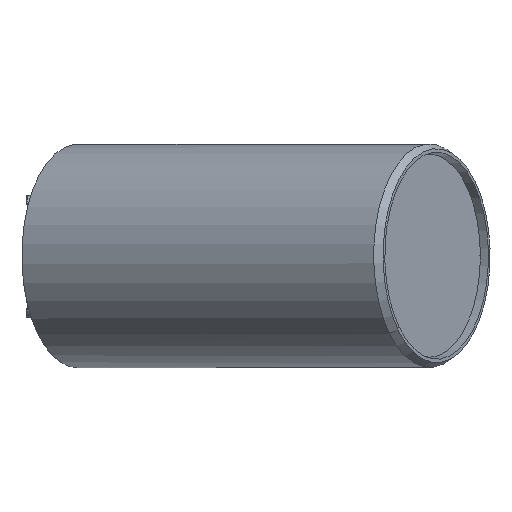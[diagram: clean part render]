
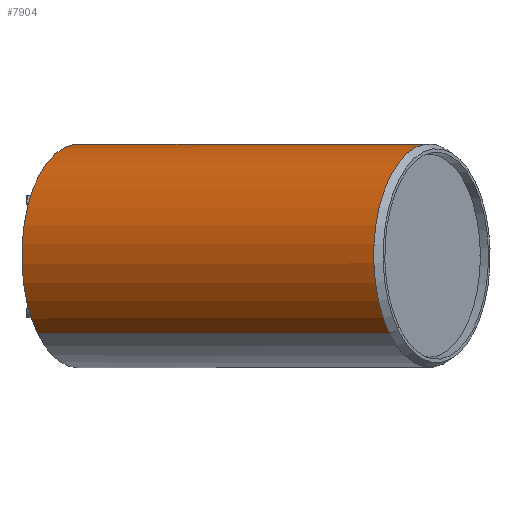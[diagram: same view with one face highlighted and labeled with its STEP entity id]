
A CAD part, top view. The second image highlights one B-rep face of the part: STEP entity #7904.
In plain terms, the highlighted cylindrical face has radius 27.5 mm (diameter 55 mm), a partial arc.
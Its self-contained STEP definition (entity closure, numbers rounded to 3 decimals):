
#326 = DIRECTION ( 'NONE',  ( -0.866, 0., -0.5 ) ) ;
#936 = ORIENTED_EDGE ( 'NONE', *, *, #5787, .T. ) ;
#1342 = CARTESIAN_POINT ( 'NONE',  ( 1146.781, -111.13, 2887.286 ) ) ;
#1449 = EDGE_LOOP ( 'NONE', ( #936, #2776, #6044, #7527 ) ) ;
#2073 = DIRECTION ( 'NONE',  ( -0.359, -0.696, 0.622 ) ) ;
#2456 = DIRECTION ( 'NONE',  ( -0.359, -0.696, 0.622 ) ) ;
#2547 = VERTEX_POINT ( 'NONE', #2751 ) ;
#2627 = CIRCLE ( 'NONE', #3779, 27.5 ) ;
#2689 = CARTESIAN_POINT ( 'NONE',  ( 1099.804, -92., 2837.352 ) ) ;
#2716 = DIRECTION ( 'NONE',  ( -0.359, -0.696, 0.622 ) ) ;
#2723 = CARTESIAN_POINT ( 'NONE',  ( 1176.525, -111.13, 2904.459 ) ) ;
#2751 = CARTESIAN_POINT ( 'NONE',  ( 1196.28, -72.87, 2870.241 ) ) ;
#2776 = ORIENTED_EDGE ( 'NONE', *, *, #4956, .T. ) ;
#2985 = FACE_OUTER_BOUND ( 'NONE', #1449, .T. ) ;
#3037 = CYLINDRICAL_SURFACE ( 'NONE', #5745, 27.5 ) ;
#3073 = CIRCLE ( 'NONE', #4377, 27.5 ) ;
#3756 = CARTESIAN_POINT ( 'NONE',  ( 1156.659, -92., 2870.177 ) ) ;
#3779 = AXIS2_PLACEMENT_3D ( 'NONE', #2689, #5463, #2073 ) ;
#4128 = DIRECTION ( 'NONE',  ( -0.866, 0., -0.5 ) ) ;
#4377 = AXIS2_PLACEMENT_3D ( 'NONE', #8919, #5306, #2716 ) ;
#4796 = CARTESIAN_POINT ( 'NONE',  ( 1109.682, -72.87, 2820.244 ) ) ;
#4956 = EDGE_CURVE ( 'NONE', #2547, #8124, #5891, .T. ) ;
#5306 = DIRECTION ( 'NONE',  ( -0.866, 0., -0.5 ) ) ;
#5463 = DIRECTION ( 'NONE',  ( -0.866, 0., -0.5 ) ) ;
#5708 = CARTESIAN_POINT ( 'NONE',  ( 1166.536, -72.87, 2853.069 ) ) ;
#5745 = AXIS2_PLACEMENT_3D ( 'NONE', #3756, #5809, #2456 ) ;
#5756 = CARTESIAN_POINT ( 'NONE',  ( 1089.926, -111.13, 2854.461 ) ) ;
#5787 = EDGE_CURVE ( 'NONE', #8442, #2547, #3073, .T. ) ;
#5809 = DIRECTION ( 'NONE',  ( -0.866, 0., -0.5 ) ) ;
#5891 = LINE ( 'NONE', #5708, #8409 ) ;
#6044 = ORIENTED_EDGE ( 'NONE', *, *, #6445, .F. ) ;
#6137 = LINE ( 'NONE', #1342, #6671 ) ;
#6146 = VERTEX_POINT ( 'NONE', #5756 ) ;
#6445 = EDGE_CURVE ( 'NONE', #6146, #8124, #2627, .T. ) ;
#6671 = VECTOR ( 'NONE', #4128, 1000. ) ;
#6891 = EDGE_CURVE ( 'NONE', #8442, #6146, #6137, .T. ) ;
#7527 = ORIENTED_EDGE ( 'NONE', *, *, #6891, .F. ) ;
#7904 = ADVANCED_FACE ( 'NONE', ( #2985 ), #3037, .T. ) ;
#8124 = VERTEX_POINT ( 'NONE', #4796 ) ;
#8409 = VECTOR ( 'NONE', #326, 1000. ) ;
#8442 = VERTEX_POINT ( 'NONE', #2723 ) ;
#8919 = CARTESIAN_POINT ( 'NONE',  ( 1186.402, -92., 2887.35 ) ) ;
